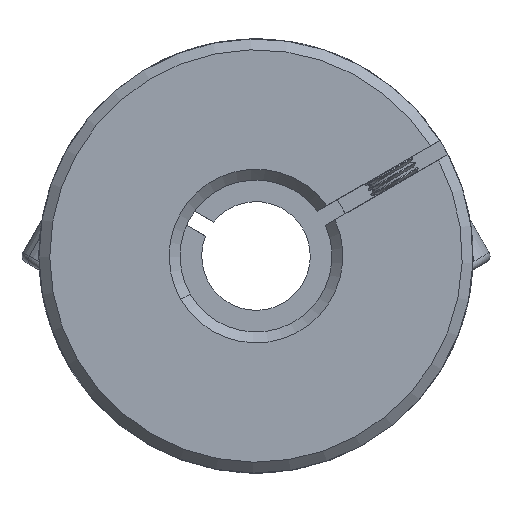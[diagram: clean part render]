
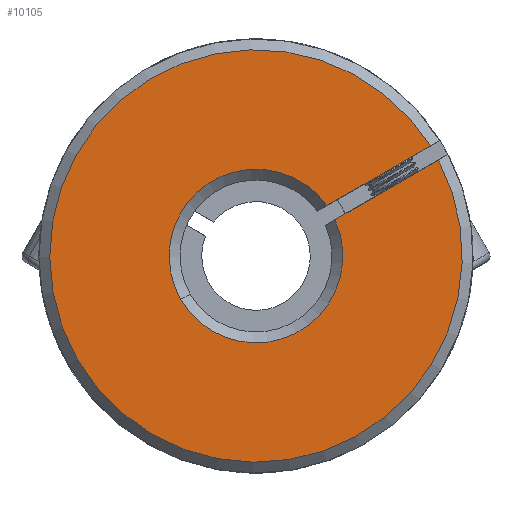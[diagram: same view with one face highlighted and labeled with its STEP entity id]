
A CAD part, front view. The second image highlights one B-rep face of the part: STEP entity #10105.
In plain terms, the highlighted planar face has unit normal (0, -1, 0).
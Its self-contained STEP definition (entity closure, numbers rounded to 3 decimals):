
#192 = CARTESIAN_POINT ( 'NONE',  ( -1.447, -31.239, 40. ) ) ;
#468 = CIRCLE ( 'NONE', #3711, 19. ) ;
#1252 = CARTESIAN_POINT ( 'NONE',  ( 5.074, -31.239, 44.634 ) ) ;
#1632 = EDGE_CURVE ( 'NONE', #5532, #4396, #12846, .T. ) ;
#2233 = ORIENTED_EDGE ( 'NONE', *, *, #1632, .F. ) ;
#2645 = CARTESIAN_POINT ( 'NONE',  ( 14.616, -31.239, 50.147 ) ) ;
#2719 = VECTOR ( 'NONE', #13649, 1000. ) ;
#2722 = DIRECTION ( 'NONE',  ( 0.5, 0., -0.866 ) ) ;
#2769 = CARTESIAN_POINT ( 'NONE',  ( -1.447, -31.239, 40. ) ) ;
#3484 = DIRECTION ( 'NONE',  ( 0.5, 0., -0.866 ) ) ;
#3560 = CARTESIAN_POINT ( 'NONE',  ( -1.447, -31.239, 40. ) ) ;
#3711 = AXIS2_PLACEMENT_3D ( 'NONE', #2769, #13559, #2722 ) ;
#3856 = EDGE_CURVE ( 'NONE', #10174, #4396, #468, .T. ) ;
#3930 = CARTESIAN_POINT ( 'NONE',  ( 5.825, -31.239, 43.335 ) ) ;
#3986 = ORIENTED_EDGE ( 'NONE', *, *, #8873, .T. ) ;
#4396 = VERTEX_POINT ( 'NONE', #13596 ) ;
#4878 = AXIS2_PLACEMENT_3D ( 'NONE', #6769, #7863, #3484 ) ;
#4921 = CARTESIAN_POINT ( 'NONE',  ( 4.204, -31.239, 44.131 ) ) ;
#4962 = EDGE_CURVE ( 'NONE', #11871, #13059, #12435, .T. ) ;
#4966 = DIRECTION ( 'NONE',  ( -0.866, 0., -0.5 ) ) ;
#5523 = FACE_OUTER_BOUND ( 'NONE', #7465, .T. ) ;
#5532 = VERTEX_POINT ( 'NONE', #3930 ) ;
#5632 = DIRECTION ( 'NONE',  ( 0.5, 0., -0.866 ) ) ;
#6654 = AXIS2_PLACEMENT_3D ( 'NONE', #3560, #12119, #5632 ) ;
#6769 = CARTESIAN_POINT ( 'NONE',  ( 52.98, -31.239, 45.743 ) ) ;
#7465 = EDGE_LOOP ( 'NONE', ( #2233, #3986, #11726, #13431, #10254 ) ) ;
#7863 = DIRECTION ( 'NONE',  ( 0., 1., 0. ) ) ;
#8085 = CIRCLE ( 'NONE', #6654, 8. ) ;
#8873 = EDGE_CURVE ( 'NONE', #5532, #11871, #8085, .T. ) ;
#8904 = PLANE ( 'NONE',  #4878 ) ;
#9055 = LINE ( 'NONE', #4921, #9730 ) ;
#9730 = VECTOR ( 'NONE', #4966, 1000. ) ;
#10105 = ADVANCED_FACE ( 'NONE', ( #5523 ), #8904, .F. ) ;
#10174 = VERTEX_POINT ( 'NONE', #2645 ) ;
#10254 = ORIENTED_EDGE ( 'NONE', *, *, #3856, .T. ) ;
#11002 = DIRECTION ( 'NONE',  ( 0.5, 0., -0.866 ) ) ;
#11523 = CARTESIAN_POINT ( 'NONE',  ( 4.954, -31.239, 42.832 ) ) ;
#11708 = EDGE_CURVE ( 'NONE', #10174, #13059, #9055, .T. ) ;
#11726 = ORIENTED_EDGE ( 'NONE', *, *, #4962, .T. ) ;
#11871 = VERTEX_POINT ( 'NONE', #12841 ) ;
#12049 = AXIS2_PLACEMENT_3D ( 'NONE', #192, #12144, #11002 ) ;
#12119 = DIRECTION ( 'NONE',  ( 0., 1., 0. ) ) ;
#12144 = DIRECTION ( 'NONE',  ( 0., 1., 0. ) ) ;
#12435 = CIRCLE ( 'NONE', #12049, 8. ) ;
#12841 = CARTESIAN_POINT ( 'NONE',  ( -8.374, -31.239, 35.998 ) ) ;
#12846 = LINE ( 'NONE', #11523, #2719 ) ;
#13059 = VERTEX_POINT ( 'NONE', #1252 ) ;
#13431 = ORIENTED_EDGE ( 'NONE', *, *, #11708, .F. ) ;
#13559 = DIRECTION ( 'NONE',  ( 0., -1., 0. ) ) ;
#13596 = CARTESIAN_POINT ( 'NONE',  ( 15.367, -31.239, 48.848 ) ) ;
#13649 = DIRECTION ( 'NONE',  ( 0.866, 0., 0.5 ) ) ;
